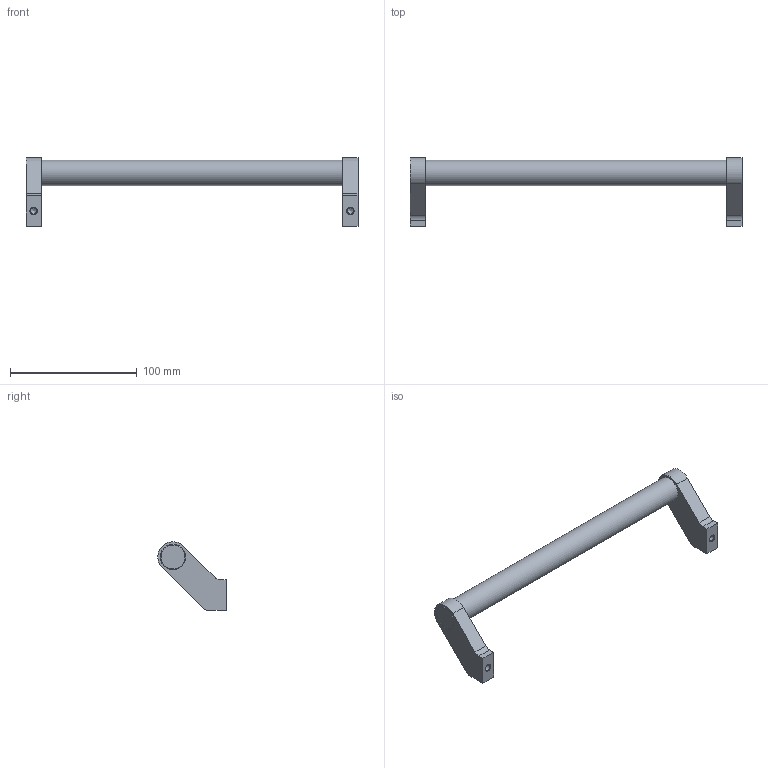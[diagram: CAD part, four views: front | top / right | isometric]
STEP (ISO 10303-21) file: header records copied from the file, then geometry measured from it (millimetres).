
FILE_DESCRIPTION( ( 'STEP AP203' ), '1' );
FILE_NAME( 'C:/Temp/Ganter_Step_05_03_2020/data/1_2/gn333/Tubular handle GN 333-20-250-A-EL.stp', '2020-03-05T10:16:09', ( 'License CC BY-ND 4.0' ), ( 'CADENAS' ), ' ', 'PARTsolutions', ' ' );
FILE_SCHEMA( ( 'CONFIG_CONTROL_DESIGN' ) );
Length unit declared in the file: millimetre
Products named in the file (1): _Tubular handle GN 333-20-250-A-EL
Bounding box: 262 x 53.95 x 53.95 mm (x, y, z)
Volume: 111017.9 mm3; surface area: 25059.6 mm2
Topology: 1 solids, 1 shells, 33 faces, 77 edges, 50 vertices
Faces by surface type: plane 16, cylinder 11, cone 4, torus 2
Full cylindrical faces by diameter (mm): 4.917 x2, 20 x3
Entity records: 906 total; most frequent: DIRECTION 156, CARTESIAN_POINT 144, ORIENTED_EDGE 124, EDGE_CURVE 62, AXIS2_PLACEMENT_3D 60, EDGE_LOOP 48, VERTEX_POINT 48, FACE_OUTER_BOUND 40
